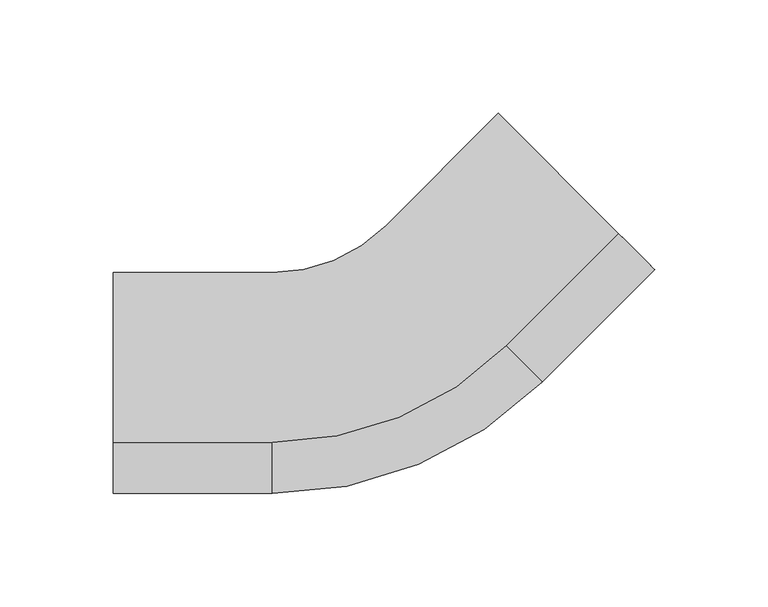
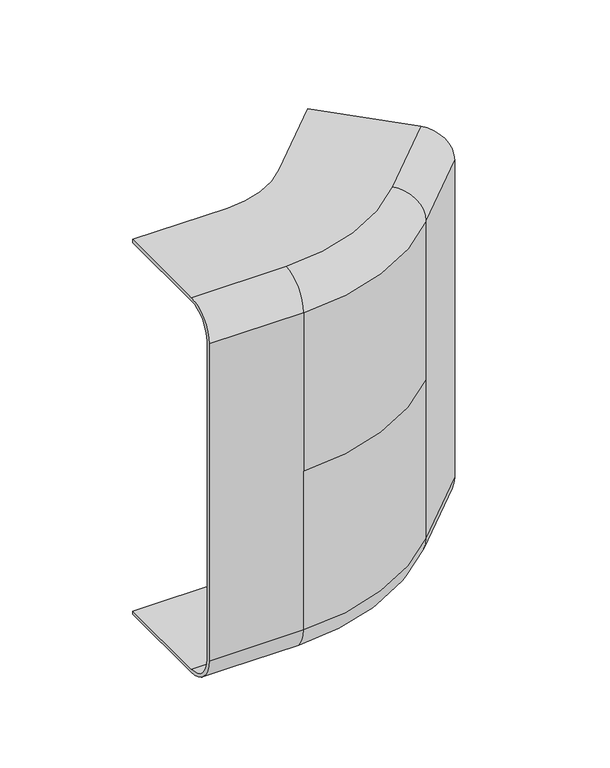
"""IFC4 building model written with IfcOpenShell, lengths in millimetres: cable carrier fitting geometry, ССT_Hyperline_FBTR-IRS45 Угол 45° внутренний (вверх) для оптического лотка : Угол 45° внутренний (вверх) для оптического лотка."""

from ifc_helpers import new_model, si_unit, point, frame, origin, place, context, project, spatial, polyline, circle_curve, ellipse_curve, trimmed, source, transform, mapped, element, save
from ifc_brep_helpers import plane_surface, cylinder_surface, revolved_surface, advanced_brep


def cable_carrier_fitting_1155e773(model_context):
    return source(origin(), model_context, "Body", "AdvancedBrep", [
        advanced_brep(
        [(116.6255217, 53.3960333, 124.0), (102.483386, 67.5381689, 144.0), (49.4786617, 120.5428932, 144.0), (49.4786617, 120.5428932, 146.54), (102.483386, 67.5381689, 146.54), (118.4215729, 51.5999821, 124.0), (118.4215729, 51.5999821, -124.0), (102.483386, 67.5381689, -146.54), (49.4786617, 120.5428932, -146.54), (49.4786617, 120.5428932, -144.0), (102.483386, 67.5381689, -144.0), (116.6255217, 53.3960333, -124.0), (52.9859114, 18.0406942, -144.0), (67.128047, 3.8985586, -124.0), (-0.018813, 71.0454185, -144.0), (-50.2233944, 50.25, -144.0), (-120.2233944, 50.25, -144.0), (-120.2233944, -24.71, -144.0), (-50.2233944, -24.71, -144.0), (-0.018813, 71.0454185, -146.54), (52.9859114, 18.0406942, -146.54), (-50.2233944, -24.71, -146.54), (-120.2233944, -24.71, -146.54), (-120.2233944, 50.25, -146.54), (-50.2233944, 50.25, -146.54), (68.9240982, 2.1025074, -124.0), (68.9240982, 2.1025074, 124.0), (68.9240982, 2.1025074, 0.0), (67.128047, 3.8985586, 0.0), (67.128047, 3.8985586, 124.0), (-50.2233944, -44.71, -124.0), (-50.2233944, -47.25, -124.0), (-50.2233944, -47.25, 0.0), (-50.2233944, -44.71, 0.0), (-120.2233944, -47.25, -124.0), (-120.2233944, -47.25, 124.0), (-120.2233944, -24.71, 146.54), (-120.2233944, 50.25, 146.54), (-120.2233944, 50.25, 144.0), (-120.2233944, -24.71, 144.0), (-120.2233944, -44.71, 124.0), (-120.2233944, -44.71, -124.0), (-50.2233944, -47.25, 124.0), (-50.2233944, -44.71, 124.0), (52.9859114, 18.0406942, 144.0), (-50.2233944, -24.71, 144.0), (-50.2233944, 50.25, 144.0), (-0.018813, 71.0454185, 144.0), (-0.018813, 71.0454185, 146.54), (-50.2233944, 50.25, 146.54), (-50.2233944, -24.71, 146.54), (52.9859114, 18.0406942, 146.54)],
        [
            (0, 1, circle_curve(frame((102.483386, 67.5381689, 124.0), z_axis=(-0.7071067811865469, -0.7071067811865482, 0.0), x_axis=(0.7071067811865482, -0.7071067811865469, 0.0)), 20.0)),
            (1, 2),
            (2, 3),
            (3, 4),
            (4, 5, circle_curve(frame((102.483386, 67.5381689, 124.0), z_axis=(0.7071067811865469, 0.7071067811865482, 0.0), x_axis=(0.7071067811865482, -0.7071067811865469, 0.0)), 22.54)),
            (5, 6),
            (6, 7, circle_curve(frame((102.483386, 67.5381689, -124.0), z_axis=(0.7071067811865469, 0.7071067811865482, 0.0), x_axis=(0.7071067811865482, -0.7071067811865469, 0.0)), 22.54)),
            (7, 8),
            (8, 9),
            (9, 10),
            (10, 11, circle_curve(frame((102.483386, 67.5381689, -124.0), z_axis=(-0.7071067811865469, -0.7071067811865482, 0.0), x_axis=(0.7071067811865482, -0.7071067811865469, 0.0)), 20.0)),
            (11, 0),
            (10, 12),
            (12, 13, circle_curve(frame((52.9859114, 18.0406942, -124.0), z_axis=(-0.7071067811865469, -0.7071067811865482, 0.0), x_axis=(0.7071067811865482, -0.7071067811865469, 0.0)), 20.0)),
            (13, 11),
            (9, 14),
            (14, 15, circle_curve(frame((-50.2233944, 121.25, -144.0), z_axis=(0.0, 0.0, -1.0), x_axis=(0.7071067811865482, -0.7071067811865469, 0.0)), 71.0)),
            (15, 16),
            (16, 17),
            (17, 18),
            (18, 12, circle_curve(frame((-50.2233944, 121.25, -144.0), z_axis=(0.0, 0.0, 1.0), x_axis=(0.7071067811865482, -0.7071067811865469, 0.0)), 145.96)),
            (8, 19),
            (19, 14),
            (7, 20),
            (20, 21, circle_curve(frame((-50.2233944, 121.25, -146.54), z_axis=(0.0, 0.0, -1.0), x_axis=(0.7071067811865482, -0.7071067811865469, 0.0)), 145.96)),
            (21, 22),
            (22, 23),
            (23, 24),
            (24, 19, circle_curve(frame((-50.2233944, 121.25, -146.54), z_axis=(0.0, 0.0, 1.0), x_axis=(0.7071067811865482, -0.7071067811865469, 0.0)), 71.0)),
            (6, 25),
            (25, 20, circle_curve(frame((52.9859114, 18.0406942, -124.0), z_axis=(0.7071067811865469, 0.7071067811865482, 0.0), x_axis=(0.7071067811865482, -0.7071067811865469, 0.0)), 22.54)),
            (5, 26),
            (26, 27),
            (27, 25),
            (13, 28),
            (28, 29),
            (29, 0),
            (18, 30, circle_curve(frame((-50.2233944, -24.71, -124.0), z_axis=(-1.0, 0.0, 0.0), x_axis=(0.0, -1.0, 0.0)), 20.0)),
            (30, 13, circle_curve(frame((-50.2233944, 121.25, -124.0), z_axis=(0.0, 0.0, 1.0), x_axis=(0.7071067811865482, -0.7071067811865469, 0.0)), 165.96)),
            (24, 15),
            (25, 31, circle_curve(frame((-50.2233944, 121.25, -124.0), z_axis=(0.0, 0.0, -1.0), x_axis=(0.7071067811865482, -0.7071067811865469, 0.0)), 168.5)),
            (31, 21, circle_curve(frame((-50.2233944, -24.71, -124.0), z_axis=(1.0, 0.0, 0.0), x_axis=(0.0, -1.0, 0.0)), 22.54)),
            (27, 32, circle_curve(frame((-50.2233944, 121.25, 0.0), z_axis=(0.0, 0.0, -1.0), x_axis=(0.7071067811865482, -0.7071067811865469, 0.0)), 168.5)),
            (32, 31),
            (30, 33),
            (33, 28, circle_curve(frame((-50.2233944, 121.25, 0.0), z_axis=(0.0, 0.0, 1.0), x_axis=(0.7071067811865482, -0.7071067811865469, 0.0)), 165.96)),
            (16, 23),
            (22, 34, circle_curve(frame((-120.2233944, -24.71, -124.0), z_axis=(-1.0, 0.0, 0.0), x_axis=(0.0, -1.0, 0.0)), 22.54)),
            (34, 35),
            (35, 36, circle_curve(frame((-120.2233944, -24.71, 124.0), z_axis=(-1.0, 0.0, 0.0), x_axis=(0.0, -1.0000000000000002, 0.0)), 22.54)),
            (36, 37),
            (37, 38),
            (38, 39),
            (39, 40, circle_curve(frame((-120.2233944, -24.71, 124.0), z_axis=(1.0, 0.0, 0.0), x_axis=(0.0, -1.0000000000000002, 0.0)), 20.0)),
            (40, 41),
            (41, 17, circle_curve(frame((-120.2233944, -24.71, -124.0), z_axis=(1.0, 0.0, 0.0), x_axis=(0.0, -1.0, 0.0)), 20.0)),
            (41, 30),
            (31, 34),
            (32, 42),
            (42, 35),
            (40, 43),
            (43, 33),
            (29, 44, circle_curve(frame((52.9859114, 18.0406942, 124.0), z_axis=(-0.7071067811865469, -0.7071067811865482, 0.0), x_axis=(0.7071067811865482, -0.7071067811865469, 0.0)), 20.0)),
            (44, 1),
            (44, 45, circle_curve(frame((-50.2233944, 121.25, 144.0), z_axis=(0.0, 0.0, -1.0), x_axis=(0.7071067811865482, -0.7071067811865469, 0.0)), 145.96)),
            (45, 39),
            (38, 46),
            (46, 47, circle_curve(frame((-50.2233944, 121.25, 144.0), z_axis=(0.0, 0.0, 1.0), x_axis=(0.7071067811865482, -0.7071067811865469, 0.0)), 71.0)),
            (47, 2),
            (47, 48),
            (48, 3),
            (48, 49, circle_curve(frame((-50.2233944, 121.25, 146.54), z_axis=(0.0, 0.0, -1.0), x_axis=(0.7071067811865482, -0.7071067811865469, 0.0)), 71.0)),
            (49, 37),
            (36, 50),
            (50, 51, circle_curve(frame((-50.2233944, 121.25, 146.54), z_axis=(0.0, 0.0, 1.0), x_axis=(0.7071067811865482, -0.7071067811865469, 0.0)), 145.96)),
            (51, 4),
            (51, 26, circle_curve(frame((52.9859114, 18.0406942, 124.0), z_axis=(0.7071067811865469, 0.7071067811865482, 0.0), x_axis=(0.7071067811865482, -0.7071067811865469, 0.0)), 22.54)),
            (29, 43, circle_curve(frame((-50.2233944, 121.25, 124.0), z_axis=(0.0, 0.0, -1.0), x_axis=(0.7071067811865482, -0.7071067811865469, 0.0)), 165.96)),
            (43, 45, circle_curve(frame((-50.2233944, -24.71, 124.0), z_axis=(-1.0, 0.0, 0.0), x_axis=(0.0, -1.0, 0.0)), 20.0)),
            (46, 49),
            (50, 42, circle_curve(frame((-50.2233944, -24.71, 124.0), z_axis=(1.0, 0.0, 0.0), x_axis=(0.0, -1.0, 0.0)), 22.54)),
            (42, 26, circle_curve(frame((-50.2233944, 121.25, 124.0), z_axis=(0.0, 0.0, 1.0), x_axis=(0.7071067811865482, -0.7071067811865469, 0.0)), 168.5)),
        ],
        [
            plane_surface(frame((84.126894, 85.8946609, -55.0), z_axis=(0.7071067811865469, 0.7071067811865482, 0.0), x_axis=(0.0, 0.0, 1.0))),
            revolved_surface(polyline([(67.12804697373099, 3.8985586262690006, -124.0), (116.62552167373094, 53.39603332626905, -124.0)]), (102.483386, 67.5381689, -124.0), (-0.7071067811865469, -0.7071067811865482, 0.0)),
            plane_surface(frame((49.4786617, 120.5428932, -144.0), z_axis=(0.0, 0.0, 1.0), x_axis=(-0.7071067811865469, -0.7071067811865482, 0.0))),
            plane_surface(frame((49.4786617, 120.5428932, -146.54), z_axis=(-0.7071067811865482, 0.7071067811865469, 0.0), x_axis=(-0.7071067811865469, -0.7071067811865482, 0.0))),
            plane_surface(frame((102.483386, 67.5381689, -146.54), z_axis=(0.0, 0.0, -1.0), x_axis=(-0.7071067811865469, -0.7071067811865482, 0.0))),
            cylinder_surface(frame((102.483386, 67.5381689, -124.0), z_axis=(0.7071067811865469, 0.7071067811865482, 0.0), x_axis=(0.7071067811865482, -0.7071067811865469, 0.0)), 22.54),
            plane_surface(frame((118.4215729, 51.5999821, 0.0), z_axis=(0.7071067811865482, -0.7071067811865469, 0.0), x_axis=(-0.7071067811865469, -0.7071067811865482, 0.0))),
            plane_surface(frame((116.6255217, 53.3960333, -124.0), z_axis=(-0.7071067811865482, 0.7071067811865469, 0.0), x_axis=(-0.7071067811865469, -0.7071067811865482, 0.0))),
            revolved_surface(trimmed(ellipse_curve(frame((52.9859114, 18.0406942, -124.0), z_axis=(-0.7071067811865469, -0.7071067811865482, 0.0), x_axis=(0.7071067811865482, -0.7071067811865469, 0.0)), 20.0, 20.0), [point((52.9859114, 18.0406942, -144.0))], [point((67.128047, 3.8985586, -124.0))], True, "CARTESIAN"), (-50.2233944, 121.25, -55.0), (0.0, 0.0, -1.0)),
            revolved_surface(polyline([(-0.018812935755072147, 71.04541853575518, -146.54), (-0.018812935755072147, 71.04541853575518, -144.0)]), (-50.2233944, 121.25, -55.0), (0.0, 0.0, -1.0)),
            revolved_surface(trimmed(ellipse_curve(frame((52.9859114, 18.0406942, -124.0), z_axis=(0.7071067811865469, 0.7071067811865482, 0.0), x_axis=(0.7071067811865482, -0.7071067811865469, 0.0)), 22.54, 22.54), [point((68.9240982, 2.1025074, -124.0))], [point((52.9859114, 18.0406942, -146.54))], True, "CARTESIAN"), (-50.2233944, 121.25, -55.0), (0.0, 0.0, -1.0)),
            cylinder_surface(frame((-50.2233944, 121.25, -55.0), z_axis=(0.0, 0.0, -1.0), x_axis=(0.7071067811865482, -0.7071067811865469, 0.0)), 168.5),
            revolved_surface(polyline([(67.12804700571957, 3.898558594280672, -124.0), (67.12804700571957, 3.898558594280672, 0.0)]), (-50.2233944, 121.25, -55.0), (0.0, 0.0, -1.0)),
            plane_surface(frame((-120.2233944, 1.25, -55.0), z_axis=(-1.0, 0.0, 0.0), x_axis=(0.0, 0.0, 1.0))),
            revolved_surface(polyline([(-120.22339439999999, -44.71, -124.0), (-50.2233944, -44.71, -124.0)]), (-50.2233944, -24.71, -124.0), (-1.0, 0.0, 0.0)),
            plane_surface(frame((-50.2233944, 50.25, -146.54), z_axis=(0.0, 1.0, 0.0), x_axis=(-1.0, 0.0, 0.0))),
            cylinder_surface(frame((-50.2233944, -24.71, -124.0), z_axis=(1.0, 0.0, 0.0), x_axis=(0.0, -1.0, 0.0)), 22.54),
            plane_surface(frame((-50.2233944, -47.25, 0.0), z_axis=(0.0, -1.0, 0.0), x_axis=(-1.0, 0.0, 0.0))),
            plane_surface(frame((-50.2233944, -44.71, -124.0), z_axis=(0.0, 1.0, 0.0), x_axis=(-1.0, 0.0, 0.0))),
            revolved_surface(polyline([(67.12804697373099, 3.8985586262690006, 124.0), (116.62552167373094, 53.39603332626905, 124.0)]), (102.483386, 67.5381689, 124.0), (-0.7071067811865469, -0.7071067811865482, 0.0)),
            plane_surface(frame((102.483386, 67.5381689, 144.0), z_axis=(0.0, 0.0, -1.0), x_axis=(-0.7071067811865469, -0.7071067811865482, 0.0))),
            plane_surface(frame((49.4786617, 120.5428932, 144.0), z_axis=(-0.7071067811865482, 0.7071067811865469, 0.0), x_axis=(-0.7071067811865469, -0.7071067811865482, 0.0))),
            plane_surface(frame((49.4786617, 120.5428932, 146.54), z_axis=(0.0, 0.0, 1.0), x_axis=(-0.7071067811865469, -0.7071067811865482, 0.0))),
            cylinder_surface(frame((102.483386, 67.5381689, 124.0), z_axis=(0.7071067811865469, 0.7071067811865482, 0.0), x_axis=(0.7071067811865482, -0.7071067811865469, 0.0)), 22.54),
            revolved_surface(trimmed(ellipse_curve(frame((52.9859114, 18.0406942, 124.0), z_axis=(-0.7071067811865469, -0.7071067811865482, 0.0), x_axis=(0.7071067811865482, -0.7071067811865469, 0.0)), 20.0, 20.0), [point((67.128047, 3.8985586, 124.0))], [point((52.9859114, 18.0406942, 144.0))], True, "CARTESIAN"), (-50.2233944, 121.25, 55.0), (0.0, 0.0, -1.0)),
            revolved_surface(polyline([(-0.018812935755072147, 71.04541853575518, 144.0), (-0.018812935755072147, 71.04541853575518, 146.54)]), (-50.2233944, 121.25, 55.0), (0.0, 0.0, -1.0)),
            revolved_surface(trimmed(ellipse_curve(frame((52.9859114, 18.0406942, 124.0), z_axis=(0.7071067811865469, 0.7071067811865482, 0.0), x_axis=(0.7071067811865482, -0.7071067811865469, 0.0)), 22.54, 22.54), [point((52.9859114, 18.0406942, 146.54))], [point((68.9240982, 2.1025074, 124.0))], True, "CARTESIAN"), (-50.2233944, 121.25, 55.0), (0.0, 0.0, -1.0)),
            cylinder_surface(frame((-50.2233944, 121.25, 55.0), z_axis=(0.0, 0.0, -1.0), x_axis=(0.7071067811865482, -0.7071067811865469, 0.0)), 168.5),
            revolved_surface(polyline([(67.12804700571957, 3.898558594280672, 0.0), (67.12804700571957, 3.898558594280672, 124.0)]), (-50.2233944, 121.25, 55.0), (0.0, 0.0, -1.0)),
            revolved_surface(polyline([(-120.22339440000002, -44.71000000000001, 124.0), (-50.2233944, -44.71000000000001, 124.0)]), (-50.2233944, -24.71, 124.0), (-1.0000000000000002, 0.0, 0.0)),
            plane_surface(frame((-50.2233944, 50.25, 144.0), z_axis=(0.0, 1.0, 0.0), x_axis=(-1.0, 0.0, 0.0))),
            cylinder_surface(frame((-50.2233944, -24.71, 124.0), z_axis=(1.0000000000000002, 0.0, 0.0), x_axis=(0.0, -1.0000000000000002, 0.0)), 22.54),
        ],
        [
            (0, [[1, 2, 3, 4, 5, 6, 7, 8, 9, 10, 11, 12]]),
            (1, [[-11, 13, 14, 15]]),
            (2, [[-10, 16, 17, 18, 19, 20, 21, -13]]),
            (3, [[-9, 22, 23, -16]]),
            (4, [[-8, 24, 25, 26, 27, 28, 29, -22]]),
            (5, [[-7, 30, 31, -24]]),
            (6, [[-6, 32, 33, 34, -30]]),
            (7, [[-12, -15, 35, 36, 37]]),
            (8, [[-14, -21, 38, 39]]),
            (9, [[-17, -23, -29, 40]]),
            (10, [[-25, -31, 41, 42]]),
            (11, [[-34, 43, 44, -41]]),
            (12, [[-35, -39, 45, 46]]),
            (13, [[-19, 47, -27, 48, 49, 50, 51, 52, 53, 54, 55, 56]]),
            (14, [[-20, -56, 57, -38]]),
            (15, [[-18, -40, -28, -47]]),
            (16, [[-26, -42, 58, -48]]),
            (17, [[-44, 59, 60, -49, -58]]),
            (18, [[-45, -57, -55, 61, 62]]),
            (19, [[-1, -37, 63, 64]]),
            (20, [[-2, -64, 65, 66, -53, 67, 68, 69]]),
            (21, [[-3, -69, 70, 71]]),
            (22, [[-4, -71, 72, 73, -51, 74, 75, 76]]),
            (23, [[-5, -76, 77, -32]]),
            (24, [[-63, 78, 79, -65]]),
            (25, [[-68, 80, -72, -70]]),
            (26, [[-75, 81, 82, -77]]),
            (27, [[-33, -82, -59, -43]]),
            (28, [[-36, -46, -62, -78]]),
            (29, [[-66, -79, -61, -54]]),
            (30, [[-67, -52, -73, -80]]),
            (31, [[-74, -50, -60, -81]]),
        ],
    ),
    ])


if __name__ == "__main__":
    model = new_model("IFC4")
    model_context = context("Model", 3, world=origin())
    ifc_project = project(units=[si_unit("LENGTHUNIT", "METRE", prefix="MILLI")], contexts=[model_context])
    site = spatial("IfcSite", under=ifc_project)
    building = spatial("IfcBuilding", under=site)
    placement = place(None, origin())
    cable_carrier_fitting_shape = cable_carrier_fitting_1155e773(model_context)
    element("IfcCableCarrierFitting", 1, ObjectType="ССT_Hyperline_FBTR-IRS45 Угол 45° внутренний (вверх) для оптического лотка : Угол 45° внутренний (вверх) для оптического лотка", at=placement, inside=building, context=model_context, shape_type="MappedRepresentation", body=[
        mapped(cable_carrier_fitting_shape, transform((0.0, 0.0, 0.0), x_axis=(1.0, 0.0, 0.0), y_axis=(0.0, 1.0, 0.0), z_axis=(0.0, 0.0, 1.0))),
    ])
    save(model, "model.ifc")
